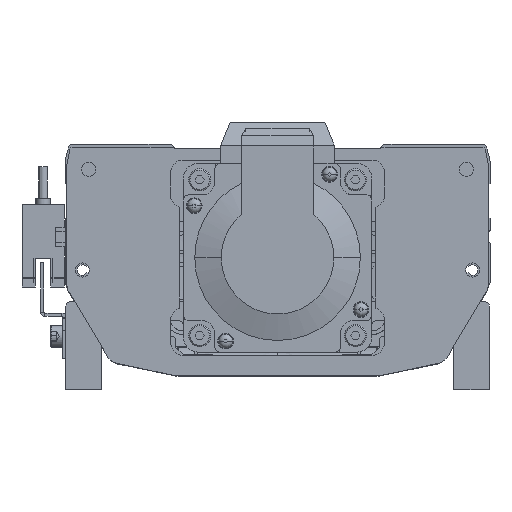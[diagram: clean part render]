
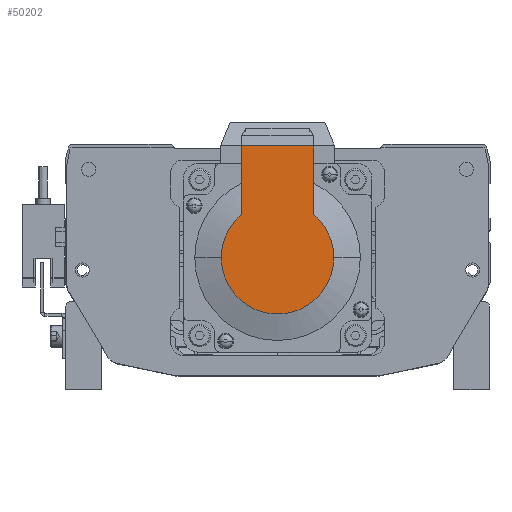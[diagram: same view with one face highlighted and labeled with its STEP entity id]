
A CAD part, front view. The second image highlights one B-rep face of the part: STEP entity #50202.
In plain terms, the highlighted planar face has unit normal (0, -1, 0) as drawn and (0, 1, 0) by its records, which use the part's own axes.
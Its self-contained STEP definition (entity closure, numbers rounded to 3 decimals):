
#840 = CARTESIAN_POINT ( 'NONE',  ( 0., 98.5, 0. ) ) ;
#1840 = LINE ( 'NONE', #5200, #7914 ) ;
#5036 = AXIS2_PLACEMENT_3D ( 'NONE', #33532, #52899, #38361 ) ;
#5200 = CARTESIAN_POINT ( 'NONE',  ( 0., 98.5, -11.45 ) ) ;
#5405 = DIRECTION ( 'NONE',  ( -1., 0., 0. ) ) ;
#5878 = CARTESIAN_POINT ( 'NONE',  ( 35.5, 98.5, 11.45 ) ) ;
#6207 = FACE_OUTER_BOUND ( 'NONE', #32563, .T. ) ;
#6254 = LINE ( 'NONE', #48925, #43177 ) ;
#7914 = VECTOR ( 'NONE', #5405, 1000. ) ;
#7952 = CARTESIAN_POINT ( 'NONE',  ( 13.735, 98.5, 11.45 ) ) ;
#11266 = AXIS2_PLACEMENT_3D ( 'NONE', #840, #29398, #24974 ) ;
#11583 = VERTEX_POINT ( 'NONE', #7952 ) ;
#11929 = VECTOR ( 'NONE', #59014, 1000. ) ;
#13407 = EDGE_CURVE ( 'NONE', #11583, #52857, #18748, .T. ) ;
#15267 = CARTESIAN_POINT ( 'NONE',  ( 13.735, 98.5, -11.45 ) ) ;
#16371 = CARTESIAN_POINT ( 'NONE',  ( 35.5, 98.5, -11.45 ) ) ;
#17973 = ORIENTED_EDGE ( 'NONE', *, *, #54015, .F. ) ;
#18748 = CIRCLE ( 'NONE', #5036, 17.881 ) ;
#22081 = AXIS2_PLACEMENT_3D ( 'NONE', #23411, #28463, #57173 ) ;
#23411 = CARTESIAN_POINT ( 'NONE',  ( 0., 98.5, 0. ) ) ;
#24604 = DIRECTION ( 'NONE',  ( 0., 0., -1. ) ) ;
#24974 = DIRECTION ( 'NONE',  ( 0., 0., -1. ) ) ;
#27869 = EDGE_CURVE ( 'NONE', #52857, #45984, #46388, .T. ) ;
#28463 = DIRECTION ( 'NONE',  ( 0., -1., 0. ) ) ;
#29398 = DIRECTION ( 'NONE',  ( 0., -1., 0. ) ) ;
#29755 = EDGE_CURVE ( 'NONE', #47200, #34408, #1840, .T. ) ;
#29902 = CARTESIAN_POINT ( 'NONE',  ( 0., 98.5, 11.45 ) ) ;
#32563 = EDGE_LOOP ( 'NONE', ( #54581, #17973, #55824, #58308, #35031, #42756 ) ) ;
#32601 = CARTESIAN_POINT ( 'NONE',  ( 0., 98.5, 17.881 ) ) ;
#33532 = CARTESIAN_POINT ( 'NONE',  ( 0., 98.5, 0. ) ) ;
#34273 = CIRCLE ( 'NONE', #56029, 17.881 ) ;
#34408 = VERTEX_POINT ( 'NONE', #15267 ) ;
#35031 = ORIENTED_EDGE ( 'NONE', *, *, #35392, .F. ) ;
#35392 = EDGE_CURVE ( 'NONE', #45984, #34408, #34273, .T. ) ;
#38361 = DIRECTION ( 'NONE',  ( 0., 0., -1. ) ) ;
#42756 = ORIENTED_EDGE ( 'NONE', *, *, #27869, .F. ) ;
#43177 = VECTOR ( 'NONE', #53313, 1000. ) ;
#43785 = CARTESIAN_POINT ( 'NONE',  ( 0., 98.5, -17.881 ) ) ;
#45984 = VERTEX_POINT ( 'NONE', #43785 ) ;
#46388 = CIRCLE ( 'NONE', #22081, 17.881 ) ;
#47200 = VERTEX_POINT ( 'NONE', #16371 ) ;
#48211 = CARTESIAN_POINT ( 'NONE',  ( 0., 98.5, 0. ) ) ;
#48911 = VERTEX_POINT ( 'NONE', #5878 ) ;
#48925 = CARTESIAN_POINT ( 'NONE',  ( 35.5, 98.5, 0. ) ) ;
#50202 = ADVANCED_FACE ( 'NONE', ( #6207 ), #53826, .F. ) ;
#52857 = VERTEX_POINT ( 'NONE', #32601 ) ;
#52899 = DIRECTION ( 'NONE',  ( 0., -1., 0. ) ) ;
#53313 = DIRECTION ( 'NONE',  ( 0., 0., 1. ) ) ;
#53461 = DIRECTION ( 'NONE',  ( 0., -1., 0. ) ) ;
#53826 = PLANE ( 'NONE',  #11266 ) ;
#54015 = EDGE_CURVE ( 'NONE', #48911, #11583, #62483, .T. ) ;
#54581 = ORIENTED_EDGE ( 'NONE', *, *, #13407, .F. ) ;
#55824 = ORIENTED_EDGE ( 'NONE', *, *, #56110, .F. ) ;
#56029 = AXIS2_PLACEMENT_3D ( 'NONE', #48211, #53461, #24604 ) ;
#56110 = EDGE_CURVE ( 'NONE', #47200, #48911, #6254, .T. ) ;
#57173 = DIRECTION ( 'NONE',  ( 0., 0., -1. ) ) ;
#58308 = ORIENTED_EDGE ( 'NONE', *, *, #29755, .T. ) ;
#59014 = DIRECTION ( 'NONE',  ( -1., 0., 0. ) ) ;
#62483 = LINE ( 'NONE', #29902, #11929 ) ;
